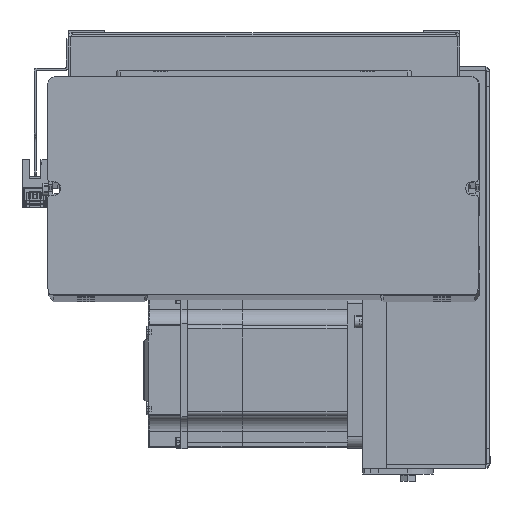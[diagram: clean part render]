
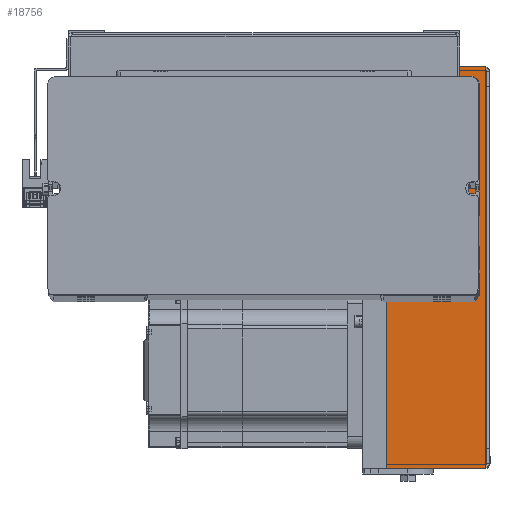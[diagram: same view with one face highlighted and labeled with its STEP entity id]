
A CAD part, top view. The second image highlights one B-rep face of the part: STEP entity #18756.
In plain terms, the highlighted planar face has unit normal (0, 0, 1) as drawn and (0, 1, 0) by its records, which use the part's own axes.
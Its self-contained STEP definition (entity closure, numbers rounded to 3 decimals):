
#1861 = FACE_OUTER_BOUND ( 'NONE', #32617, .T. ) ;
#2173 = DIRECTION ( 'NONE',  ( -1., 0., 0. ) ) ;
#3703 = ORIENTED_EDGE ( 'NONE', *, *, #23416, .T. ) ;
#4895 = PLANE ( 'NONE',  #16326 ) ;
#8869 = DIRECTION ( 'NONE',  ( 0., 0., -1. ) ) ;
#8940 = CARTESIAN_POINT ( 'NONE',  ( -102.5, 54., 62.7 ) ) ;
#9793 = LINE ( 'NONE', #37025, #50099 ) ;
#11752 = ORIENTED_EDGE ( 'NONE', *, *, #30006, .F. ) ;
#12787 = EDGE_CURVE ( 'NONE', #15077, #47013, #9793, .T. ) ;
#15077 = VERTEX_POINT ( 'NONE', #35239 ) ;
#15961 = CARTESIAN_POINT ( 'NONE',  ( -102.5, 54., 12. ) ) ;
#16326 = AXIS2_PLACEMENT_3D ( 'NONE', #20430, #49200, #41810 ) ;
#17351 = CARTESIAN_POINT ( 'NONE',  ( -102.5, 54., 62.7 ) ) ;
#18756 = ADVANCED_FACE ( 'NONE', ( #1861 ), #4895, .F. ) ;
#20430 = CARTESIAN_POINT ( 'NONE',  ( 0., 54., 63. ) ) ;
#20821 = VECTOR ( 'NONE', #20922, 1000. ) ;
#20922 = DIRECTION ( 'NONE',  ( -1., 0., 0. ) ) ;
#22673 = EDGE_CURVE ( 'NONE', #15077, #43020, #28207, .T. ) ;
#23416 = EDGE_CURVE ( 'NONE', #43020, #48693, #40807, .T. ) ;
#24041 = CARTESIAN_POINT ( 'NONE',  ( 102.5, 54., 12. ) ) ;
#28207 = LINE ( 'NONE', #40942, #41804 ) ;
#29992 = ORIENTED_EDGE ( 'NONE', *, *, #12787, .F. ) ;
#30006 = EDGE_CURVE ( 'NONE', #47013, #48693, #32892, .T. ) ;
#31039 = VECTOR ( 'NONE', #44883, 1000. ) ;
#32617 = EDGE_LOOP ( 'NONE', ( #29992, #48038, #3703, #11752 ) ) ;
#32892 = LINE ( 'NONE', #17351, #31039 ) ;
#35239 = CARTESIAN_POINT ( 'NONE',  ( 102.5, 54., 62.7 ) ) ;
#37025 = CARTESIAN_POINT ( 'NONE',  ( -102.5, 54., 62.7 ) ) ;
#40807 = LINE ( 'NONE', #44118, #20821 ) ;
#40942 = CARTESIAN_POINT ( 'NONE',  ( 102.5, 54., 62.7 ) ) ;
#41804 = VECTOR ( 'NONE', #8869, 1000. ) ;
#41810 = DIRECTION ( 'NONE',  ( 0., 0., 1. ) ) ;
#43020 = VERTEX_POINT ( 'NONE', #24041 ) ;
#44118 = CARTESIAN_POINT ( 'NONE',  ( 0., 54., 12. ) ) ;
#44883 = DIRECTION ( 'NONE',  ( 0., 0., -1. ) ) ;
#47013 = VERTEX_POINT ( 'NONE', #8940 ) ;
#48038 = ORIENTED_EDGE ( 'NONE', *, *, #22673, .T. ) ;
#48693 = VERTEX_POINT ( 'NONE', #15961 ) ;
#49200 = DIRECTION ( 'NONE',  ( 0., -1., 0. ) ) ;
#50099 = VECTOR ( 'NONE', #2173, 1000. ) ;
